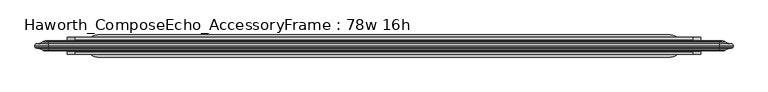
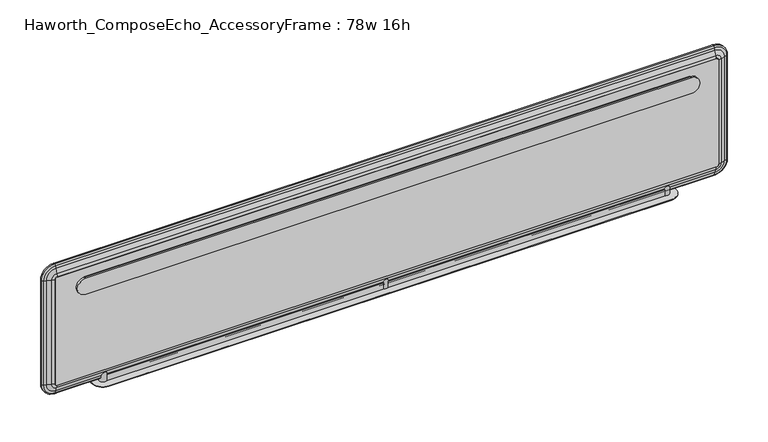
"""IFC4 building model written with IfcOpenShell, lengths in millimetres: furniture geometry, Haworth_ComposeEcho_AccessoryFrame : 78w 16h."""

from ifc_helpers import new_model, si_unit, point, frame, frame_2d, origin, place, context, project, spatial, polyline, circle_curve, ellipse_curve, trimmed, segment, composite_curve, outline, extrude, source, transform, mapped, element, save
from ifc_brep_helpers import plane_surface, cylinder_surface, revolved_surface, advanced_brep


def haworth_composeecho_accessoryframe_78w_16h_adce5783(model_context):
    return source(origin(), model_context, "Body", "SolidModel", [
        extrude(outline(composite_curve([segment(trimmed(circle_curve(frame_2d((1432.9130983, -950.0759879)), 6.3337219), [point((1439.2468202, -950.0759879))], [point((1432.9130983, -956.4097098))], False, "CARTESIAN"), True, "CONTINUOUS"), segment(polyline([(1432.9130983, -956.4097098), (1115.0680007, -956.4097098)]), True, "CONTINUOUS"), segment(trimmed(circle_curve(frame_2d((1115.0680007, -950.0597098)), 6.35), [point((1115.0680007, -956.4097098))], [point((1108.7180007, -950.0597098))], False, "CARTESIAN"), True, "CONTINUOUS"), segment(polyline([(1108.7180007, -950.0597098), (1108.7180007, 954.9402902)]), True, "CONTINUOUS"), segment(trimmed(circle_curve(frame_2d((1115.0680007, 954.9402902)), 6.35), [point((1108.7180007, 954.9402902))], [point((1115.0680007, 961.2902902))], False, "CARTESIAN"), True, "CONTINUOUS"), segment(polyline([(1115.0680007, 961.2902902), (1432.9130983, 961.2902902)]), True, "CONTINUOUS"), segment(trimmed(circle_curve(frame_2d((1432.9130983, 954.9565682)), 6.3337219), [point((1432.9130983, 961.2902902))], [point((1439.2468202, 954.9565682))], False, "CARTESIAN"), True, "CONTINUOUS"), segment(polyline([(1439.2468202, 954.9565682), (1439.2468202, -950.0759879)]), True, "CONTINUOUS")], self_intersect=False)), frame((0.0, -14.2419601, 0.0), z_axis=(0.0, 1.0, 0.0), x_axis=(0.0, 0.0, 1.0)), (0.0, 0.0, 1.0), 28.3652874),
        advanced_brep(
        [(990.1741083, 5.6620988, 1432.9130983), (954.9563745, 5.6620988, 1468.1308321), (954.9563745, 0.0, 1470.6517609), (992.695037, 0.0, 1432.9130983), (982.7453032, 6.4813873, 1432.9130983), (954.9563745, 6.4813873, 1460.7020271), (992.695037, 0.0, 1115.0680007), (990.1741083, 5.6620988, 1115.0680007), (982.7453032, 6.4813873, 1115.0680007), (954.9400964, 5.6620988, 1079.8339888), (954.9400964, 0.0, 1077.31306), (954.9400964, 6.4813873, 1087.2627938), (-950.0597098, 0.0, 1077.31306), (-950.0597098, 5.6620988, 1079.8339888), (-950.0597098, 6.4813873, 1087.2627938), (-985.2937217, 5.6620988, 1115.0680007), (-987.8146505, 0.0, 1115.0680007), (-977.8649167, 6.4813873, 1115.0680007), (-987.8146505, 0.0, 1432.9130983), (-985.2937217, 5.6620988, 1432.9130983), (-977.8649167, 6.4813873, 1432.9130983), (-950.0759879, 5.6620988, 1468.1308321), (-950.0759879, 0.0, 1470.6517609), (-950.0759879, 6.4813873, 1460.7020271), (-956.4097098, 0.0, 1115.0680007), (-956.4097098, 0.0, 1432.9130983), (-950.0759879, 0.0, 1439.2468202), (954.9563745, 0.0, 1439.2468202), (961.2900964, 0.0, 1432.9130983), (961.2900964, 0.0, 1115.0680007), (954.9400964, 0.0, 1108.7180007), (-950.0597098, 0.0, 1108.7180007), (954.9563745, 14.1233272, 1439.2468202), (961.2900964, 14.1233272, 1432.9130983), (954.9563745, 12.0676743, 1447.3253), (969.3685761, 12.0676743, 1432.9130983), (961.2900964, 14.1233272, 1115.0680007), (969.3685761, 12.0676743, 1115.0680007), (954.9400964, 14.1233272, 1108.7180007), (954.9400964, 12.0676743, 1100.6395209), (-950.0597098, 14.1233272, 1108.7180007), (-950.0597098, 12.0676743, 1100.6395209), (-956.4097098, 14.1233272, 1115.0680007), (-964.4881896, 12.0676743, 1115.0680007), (-956.4097098, 14.1233272, 1432.9130983), (-964.4881896, 12.0676743, 1432.9130983), (-950.0759879, 14.1233272, 1439.2468202), (-950.0759879, 12.0676743, 1447.3253)],
        [
            (0, 1, circle_curve(frame((954.9563745, 5.6620988, 1432.9130983), z_axis=(0.0, -1.0, 0.0), x_axis=(0.0, 0.0, 1.0)), 35.2177338)),
            (1, 2, circle_curve(frame((954.9563745, 1.6343332, 1466.7034279), z_axis=(1.0, 0.0, 0.0), x_axis=(0.0, 0.0, -1.0)), 4.2732164)),
            (2, 3, circle_curve(frame((954.9563745, 0.0, 1432.9130983), z_axis=(0.0, 1.0, 0.0), x_axis=(0.0, 0.0, 1.0)), 37.7386626)),
            (3, 0, circle_curve(frame((988.7467041, 1.6343332, 1432.9130983), z_axis=(0.0, 0.0, 1.0), x_axis=(-1.0, 0.0, 0.0)), 4.2732164)),
            (4, 5, circle_curve(frame((954.9563745, 6.4813873, 1432.9130983), z_axis=(0.0, -1.0, 0.0), x_axis=(0.0, 0.0, 1.0)), 27.7889288)),
            (5, 1),
            (0, 4),
            (3, 6),
            (6, 7, circle_curve(frame((988.7467041, 1.6343332, 1115.0680007), z_axis=(0.0, 0.0, 1.0), x_axis=(-1.0, 0.0, 0.0)), 4.2732164)),
            (7, 0),
            (7, 8),
            (8, 4),
            (9, 7, circle_curve(frame((954.9400964, 5.6620988, 1115.0680007), z_axis=(0.0, -1.0, 0.0), x_axis=(1.0, 0.0, 0.0)), 35.2340119)),
            (6, 10, circle_curve(frame((954.9400964, 0.0, 1115.0680007), z_axis=(0.0, 1.0, 0.0), x_axis=(1.0, 0.0, 0.0)), 37.7549407)),
            (10, 9, circle_curve(frame((954.9400964, 1.6343332, 1081.261393), z_axis=(1.0, 0.0, 0.0), x_axis=(0.0, 0.0, 1.0)), 4.2732164)),
            (11, 8, circle_curve(frame((954.9400964, 6.4813873, 1115.0680007), z_axis=(0.0, -1.0, 0.0), x_axis=(1.0, 0.0, 0.0)), 27.8052069)),
            (9, 11),
            (10, 12),
            (12, 13, circle_curve(frame((-950.0597098, 1.6343332, 1081.261393), z_axis=(1.0, 0.0, 0.0), x_axis=(0.0, 0.0, 1.0)), 4.2732164)),
            (13, 9),
            (13, 14),
            (14, 11),
            (15, 13, circle_curve(frame((-950.0597098, 5.6620988, 1115.0680007), z_axis=(0.0, -1.0, 0.0), x_axis=(0.0, 0.0, -1.0)), 35.2340119)),
            (12, 16, circle_curve(frame((-950.0597098, 0.0, 1115.0680007), z_axis=(0.0, 1.0, 0.0), x_axis=(0.0, 0.0, -1.0)), 37.7549407)),
            (16, 15, circle_curve(frame((-983.8663175, 1.6343332, 1115.0680007), z_axis=(0.0, 0.0, -1.0), x_axis=(1.0, 0.0, 0.0)), 4.2732164)),
            (17, 14, circle_curve(frame((-950.0597098, 6.4813873, 1115.0680007), z_axis=(0.0, -1.0, 0.0), x_axis=(0.0, 0.0, -1.0)), 27.8052069)),
            (15, 17),
            (16, 18),
            (18, 19, circle_curve(frame((-983.8663175, 1.6343332, 1432.9130983), z_axis=(0.0, 0.0, -1.0), x_axis=(1.0, 0.0, 0.0)), 4.2732164)),
            (19, 15),
            (19, 20),
            (20, 17),
            (21, 19, circle_curve(frame((-950.0759879, 5.6620988, 1432.9130983), z_axis=(0.0, -1.0, 0.0), x_axis=(-1.0, 0.0, 0.0)), 35.2177338)),
            (18, 22, circle_curve(frame((-950.0759879, 0.0, 1432.9130983), z_axis=(0.0, 1.0, 0.0), x_axis=(-1.0, 0.0, 0.0)), 37.7386626)),
            (22, 21, circle_curve(frame((-950.0759879, 1.6343332, 1466.7034279), z_axis=(-1.0, 0.0, 0.0), x_axis=(0.0, 0.0, -1.0)), 4.2732164)),
            (23, 20, circle_curve(frame((-950.0759879, 6.4813873, 1432.9130983), z_axis=(0.0, -1.0, 0.0), x_axis=(-1.0, 0.0, 0.0)), 27.7889288)),
            (21, 23),
            (22, 2),
            (1, 21),
            (24, 25),
            (25, 26, circle_curve(frame((-950.0759879, 0.0, 1432.9130983), z_axis=(0.0, 1.0, 0.0), x_axis=(-1.0, 0.0, 0.0)), 6.3337219)),
            (26, 27),
            (27, 28, circle_curve(frame((954.9563745, 0.0, 1432.9130983), z_axis=(0.0, 1.0, 0.0), x_axis=(0.0, 0.0, 1.0)), 6.3337219)),
            (28, 29),
            (29, 30, circle_curve(frame((954.9400964, 0.0, 1115.0680007), z_axis=(0.0, 1.0, 0.0), x_axis=(1.0, 0.0, 0.0)), 6.35)),
            (30, 31),
            (31, 24, circle_curve(frame((-950.0597098, 0.0, 1115.0680007), z_axis=(0.0, 1.0, 0.0), x_axis=(0.0, 0.0, -1.0)), 6.35)),
            (5, 23),
            (27, 32),
            (32, 33, circle_curve(frame((954.9563745, 14.1233272, 1432.9130983), z_axis=(0.0, 1.0, 0.0), x_axis=(0.0, 0.0, 1.0)), 6.3337219)),
            (33, 28),
            (32, 34, circle_curve(frame((954.9563745, -7.831597, 1437.960943), z_axis=(1.0, 0.0, 0.0), x_axis=(0.0, 0.0, -1.0)), 21.9925482)),
            (34, 35, circle_curve(frame((954.9563745, 12.0676743, 1432.9130983), z_axis=(0.0, 1.0, 0.0), x_axis=(0.0, 0.0, 1.0)), 14.4122017)),
            (35, 33, circle_curve(frame((960.0042192, -7.831597, 1432.9130983), z_axis=(0.0, 0.0, 1.0), x_axis=(-1.0, 0.0, 0.0)), 21.9925482)),
            (34, 5, circle_curve(frame((954.9563745, 160.3401291, 1517.1005285), z_axis=(-1.0, 0.0, 0.0), x_axis=(0.0, 0.0, -1.0)), 163.8697757)),
            (4, 35, circle_curve(frame((1039.1438047, 160.3401291, 1432.9130983), z_axis=(0.0, 0.0, -1.0), x_axis=(-1.0, 0.0, 0.0)), 163.8697757)),
            (33, 36),
            (36, 29),
            (35, 37),
            (37, 36, circle_curve(frame((960.0042192, -7.831597, 1115.0680007), z_axis=(0.0, 0.0, 1.0), x_axis=(-1.0, 0.0, 0.0)), 21.9925482)),
            (8, 37, circle_curve(frame((1039.1438047, 160.3401291, 1115.0680007), z_axis=(0.0, 0.0, -1.0), x_axis=(-1.0, 0.0, 0.0)), 163.8697757)),
            (36, 38, circle_curve(frame((954.9400964, 14.1233272, 1115.0680007), z_axis=(0.0, 1.0, 0.0), x_axis=(1.0, 0.0, 0.0)), 6.35)),
            (38, 30),
            (37, 39, circle_curve(frame((954.9400964, 12.0676743, 1115.0680007), z_axis=(0.0, 1.0, 0.0), x_axis=(1.0, 0.0, 0.0)), 14.4284798)),
            (39, 38, circle_curve(frame((954.9400964, -7.831597, 1110.0038779), z_axis=(1.0, 0.0, 0.0), x_axis=(0.0, 0.0, 1.0)), 21.9925482)),
            (11, 39, circle_curve(frame((954.9400964, 160.3401291, 1030.8642924), z_axis=(-1.0, 0.0, 0.0), x_axis=(0.0, 0.0, 1.0)), 163.8697757)),
            (38, 40),
            (40, 31),
            (39, 41),
            (41, 40, circle_curve(frame((-950.0597098, -7.831597, 1110.0038779), z_axis=(1.0, 0.0, 0.0), x_axis=(0.0, 0.0, 1.0)), 21.9925482)),
            (14, 41, circle_curve(frame((-950.0597098, 160.3401291, 1030.8642924), z_axis=(-1.0, 0.0, 0.0), x_axis=(0.0, 0.0, 1.0)), 163.8697757)),
            (40, 42, circle_curve(frame((-950.0597098, 14.1233272, 1115.0680007), z_axis=(0.0, 1.0, 0.0), x_axis=(0.0, 0.0, -1.0)), 6.35)),
            (42, 24),
            (41, 43, circle_curve(frame((-950.0597098, 12.0676743, 1115.0680007), z_axis=(0.0, 1.0, 0.0), x_axis=(0.0, 0.0, -1.0)), 14.4284798)),
            (43, 42, circle_curve(frame((-955.1238326, -7.831597, 1115.0680007), z_axis=(0.0, 0.0, -1.0), x_axis=(1.0, 0.0, 0.0)), 21.9925482)),
            (17, 43, circle_curve(frame((-1034.2634181, 160.3401291, 1115.0680007), z_axis=(0.0, 0.0, 1.0), x_axis=(1.0, 0.0, 0.0)), 163.8697757)),
            (42, 44),
            (44, 25),
            (43, 45),
            (45, 44, circle_curve(frame((-955.1238326, -7.831597, 1432.9130983), z_axis=(0.0, 0.0, -1.0), x_axis=(1.0, 0.0, 0.0)), 21.9925482)),
            (20, 45, circle_curve(frame((-1034.2634181, 160.3401291, 1432.9130983), z_axis=(0.0, 0.0, 1.0), x_axis=(1.0, 0.0, 0.0)), 163.8697757)),
            (44, 46, circle_curve(frame((-950.0759879, 14.1233272, 1432.9130983), z_axis=(0.0, 1.0, 0.0), x_axis=(-1.0, 0.0, 0.0)), 6.3337219)),
            (46, 26),
            (45, 47, circle_curve(frame((-950.0759879, 12.0676743, 1432.9130983), z_axis=(0.0, 1.0, 0.0), x_axis=(-1.0, 0.0, 0.0)), 14.4122017)),
            (47, 46, circle_curve(frame((-950.0759879, -7.831597, 1437.960943), z_axis=(-1.0, 0.0, 0.0), x_axis=(0.0, 0.0, -1.0)), 21.9925482)),
            (23, 47, circle_curve(frame((-950.0759879, 160.3401291, 1517.1005285), z_axis=(1.0, 0.0, 0.0), x_axis=(0.0, 0.0, -1.0)), 163.8697757)),
            (46, 32),
            (47, 34),
        ],
        [
            revolved_surface(trimmed(ellipse_curve(frame((954.9563745, 1.6343332, 1466.7034279), z_axis=(-1.0, 0.0, 0.0), x_axis=(0.0, 0.0, -1.0)), 4.2732164, 4.2732164), [point((954.9563745, 0.0, 1470.6517609))], [point((954.9563745, 5.6620988, 1468.1308321))], True, "CARTESIAN"), (954.9563745, 0.0, 1432.9130983), (0.0, 1.0, 0.0)),
            revolved_surface(polyline([(954.9563745, 5.6620988, 1468.1308321), (954.9563745, 6.4813873, 1460.7020271)]), (954.9563745, 0.0, 1432.9130983), (0.0, 1.0, 0.0)),
            cylinder_surface(frame((988.7467041, 1.6343332, 1432.9130983), z_axis=(0.0, 0.0, 1.0), x_axis=(-1.0, 0.0, 0.0)), 4.2732164),
            plane_surface(frame((990.1741083, 5.6620988, 1432.9130983), z_axis=(0.10962074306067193, 0.9939734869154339, 0.0), x_axis=(0.0, 0.0, -1.0))),
            revolved_surface(trimmed(ellipse_curve(frame((988.7467041, 1.6343332, 1115.0680007), z_axis=(0.0, 0.0, 1.0), x_axis=(-1.0, 0.0, 0.0)), 4.2732164, 4.2732164), [point((992.695037, 0.0, 1115.0680007))], [point((990.1741083, 5.6620988, 1115.0680007))], True, "CARTESIAN"), (954.9400964, 0.0, 1115.0680007), (0.0, 1.0, 0.0)),
            revolved_surface(polyline([(990.1741083, 5.6620988, 1115.0680007), (982.7453032, 6.4813873, 1115.0680007)]), (954.9400964, 0.0, 1115.0680007), (0.0, 1.0, 0.0)),
            cylinder_surface(frame((954.9400964, 1.6343332, 1081.261393), z_axis=(1.0, 0.0, 0.0), x_axis=(0.0, 0.0, 1.0)), 4.2732164),
            plane_surface(frame((954.9400964, 5.6620988, 1079.8339888), z_axis=(0.0, 0.9939734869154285, -0.109620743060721), x_axis=(-1.0, 0.0, 0.0))),
            revolved_surface(trimmed(ellipse_curve(frame((-950.0597098, 1.6343332, 1081.261393), z_axis=(1.0, 0.0, 0.0), x_axis=(0.0, 0.0, 1.0)), 4.2732164, 4.2732164), [point((-950.0597098, 0.0, 1077.31306))], [point((-950.0597098, 5.6620988, 1079.8339888))], True, "CARTESIAN"), (-950.0597098, 0.0, 1115.0680007), (0.0, 1.0, 0.0)),
            revolved_surface(polyline([(-950.0597098, 5.6620988, 1079.8339888), (-950.0597098, 6.4813873, 1087.2627938)]), (-950.0597098, 0.0, 1115.0680007), (0.0, 1.0, 0.0)),
            cylinder_surface(frame((-983.8663175, 1.6343332, 1115.0680007), z_axis=(0.0, 0.0, -1.0), x_axis=(1.0, 0.0, 0.0)), 4.2732164),
            plane_surface(frame((-985.2937217, 5.6620988, 1115.0680007), z_axis=(-0.10962074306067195, 0.993973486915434, 0.0), x_axis=(0.0, 0.0, 1.0))),
            revolved_surface(trimmed(ellipse_curve(frame((-983.8663175, 1.6343332, 1432.9130983), z_axis=(0.0, 0.0, -1.0), x_axis=(1.0, 0.0, 0.0)), 4.2732164, 4.2732164), [point((-987.8146505, 0.0, 1432.9130983))], [point((-985.2937217, 5.6620988, 1432.9130983))], True, "CARTESIAN"), (-950.0759879, 0.0, 1432.9130983), (0.0, 1.0, 0.0)),
            revolved_surface(polyline([(-985.2937217, 5.6620988, 1432.9130983), (-977.8649167, 6.4813873, 1432.9130983)]), (-950.0759879, 0.0, 1432.9130983), (0.0, 1.0, 0.0)),
            cylinder_surface(frame((-950.0759879, 1.6343332, 1466.7034279), z_axis=(-1.0, 0.0, 0.0), x_axis=(0.0, 0.0, -1.0)), 4.2732164),
            plane_surface(frame((-950.0759879, 0.0, 1439.2468202), z_axis=(0.0, -1.0, 0.0), x_axis=(1.0, 0.0, 0.0))),
            plane_surface(frame((-950.0759879, 5.6620988, 1468.1308321), z_axis=(0.0, 0.9939734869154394, 0.10962074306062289), x_axis=(1.0, 0.0, 0.0))),
            revolved_surface(polyline([(954.9563745, 14.1233272, 1439.2468202), (954.9563745, 0.0, 1439.2468202)]), (954.9563745, 0.0, 1432.9130983), (0.0, 1.0, 0.0)),
            revolved_surface(trimmed(ellipse_curve(frame((954.9563745, -7.831597, 1437.960943), z_axis=(-1.0, 0.0, 0.0), x_axis=(0.0, 0.0, -1.0)), 21.9925482, 21.9925482), [point((954.9563745, 12.0676743, 1447.3253))], [point((954.9563745, 14.1233272, 1439.2468202))], True, "CARTESIAN"), (954.9563745, 0.0, 1432.9130983), (0.0, 1.0, 0.0)),
            revolved_surface(trimmed(ellipse_curve(frame((954.9563745, 160.3401291, 1517.1005285), z_axis=(1.0, 0.0, 0.0), x_axis=(0.0, 0.0, -1.0)), 163.8697757, 163.8697757), [point((954.9563745, 6.4813873, 1460.7020271))], [point((954.9563745, 12.0676743, 1447.3253))], True, "CARTESIAN"), (954.9563745, 0.0, 1432.9130983), (0.0, 1.0, 0.0)),
            plane_surface(frame((961.2900964, 14.1233272, 1432.9130983), z_axis=(-1.0, 0.0, 0.0), x_axis=(0.0, 0.0, -1.0))),
            cylinder_surface(frame((960.0042192, -7.831597, 1432.9130983), z_axis=(0.0, 0.0, 1.0), x_axis=(-1.0, 0.0, 0.0)), 21.9925482),
            revolved_surface(polyline([(875.2740289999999, 160.3401291, 1115.0680007), (875.2740289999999, 160.3401291, 1432.9130983)]), (1039.1438047, 160.3401291, 1432.9130983), (0.0, 0.0, -1.0)),
            revolved_surface(polyline([(961.2900964, 14.1233272, 1115.0680007), (961.2900964, 0.0, 1115.0680007)]), (954.9400964, 0.0, 1115.0680007), (0.0, 1.0, 0.0)),
            revolved_surface(trimmed(ellipse_curve(frame((960.0042192, -7.831597, 1115.0680007), z_axis=(0.0, 0.0, 1.0), x_axis=(-1.0, 0.0, 0.0)), 21.9925482, 21.9925482), [point((969.3685761, 12.0676743, 1115.0680007))], [point((961.2900964, 14.1233272, 1115.0680007))], True, "CARTESIAN"), (954.9400964, 0.0, 1115.0680007), (0.0, 1.0, 0.0)),
            revolved_surface(trimmed(ellipse_curve(frame((1039.1438047, 160.3401291, 1115.0680007), z_axis=(0.0, 0.0, -1.0), x_axis=(-1.0, 0.0, 0.0)), 163.8697757, 163.8697757), [point((982.7453032, 6.4813873, 1115.0680007))], [point((969.3685761, 12.0676743, 1115.0680007))], True, "CARTESIAN"), (954.9400964, 0.0, 1115.0680007), (0.0, 1.0, 0.0)),
            plane_surface(frame((954.9400964, 14.1233272, 1108.7180007), z_axis=(0.0, 0.0, 1.0), x_axis=(-1.0, 0.0, 0.0))),
            cylinder_surface(frame((954.9400964, -7.831597, 1110.0038779), z_axis=(1.0, 0.0, 0.0), x_axis=(0.0, 0.0, 1.0)), 21.9925482),
            revolved_surface(polyline([(-950.0597098, 160.3401291, 1194.7340681), (954.9400964, 160.3401291, 1194.7340681)]), (954.9400964, 160.3401291, 1030.8642924), (-1.0, 0.0, 0.0)),
            revolved_surface(polyline([(-950.0597098, 14.1233272, 1108.7180007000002), (-950.0597098, 0.0, 1108.7180007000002)]), (-950.0597098, 0.0, 1115.0680007), (0.0, 1.0, 0.0)),
            revolved_surface(trimmed(ellipse_curve(frame((-950.0597098, -7.831597, 1110.0038779), z_axis=(1.0, 0.0, 0.0), x_axis=(0.0, 0.0, 1.0)), 21.9925482, 21.9925482), [point((-950.0597098, 12.0676743, 1100.6395209))], [point((-950.0597098, 14.1233272, 1108.7180007))], True, "CARTESIAN"), (-950.0597098, 0.0, 1115.0680007), (0.0, 1.0, 0.0)),
            revolved_surface(trimmed(ellipse_curve(frame((-950.0597098, 160.3401291, 1030.8642924), z_axis=(-1.0, 0.0, 0.0), x_axis=(0.0, 0.0, 1.0)), 163.8697757, 163.8697757), [point((-950.0597098, 6.4813873, 1087.2627938))], [point((-950.0597098, 12.0676743, 1100.6395209))], True, "CARTESIAN"), (-950.0597098, 0.0, 1115.0680007), (0.0, 1.0, 0.0)),
            plane_surface(frame((-956.4097098, 14.1233272, 1115.0680007), z_axis=(1.0, 0.0, 0.0), x_axis=(0.0, 0.0, 1.0))),
            cylinder_surface(frame((-955.1238326, -7.831597, 1115.0680007), z_axis=(0.0, 0.0, -1.0), x_axis=(1.0, 0.0, 0.0)), 21.9925482),
            revolved_surface(polyline([(-870.3936424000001, 160.3401291, 1432.9130983), (-870.3936424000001, 160.3401291, 1115.0680007)]), (-1034.2634181, 160.3401291, 1115.0680007), (0.0, 0.0, 1.0)),
            revolved_surface(polyline([(-956.4097098, 14.1233272, 1432.9130983), (-956.4097098, 0.0, 1432.9130983)]), (-950.0759879, 0.0, 1432.9130983), (0.0, 1.0, 0.0)),
            revolved_surface(trimmed(ellipse_curve(frame((-955.1238326, -7.831597, 1432.9130983), z_axis=(0.0, 0.0, -1.0), x_axis=(1.0, 0.0, 0.0)), 21.9925482, 21.9925482), [point((-964.4881896, 12.0676743, 1432.9130983))], [point((-956.4097098, 14.1233272, 1432.9130983))], True, "CARTESIAN"), (-950.0759879, 0.0, 1432.9130983), (0.0, 1.0, 0.0)),
            revolved_surface(trimmed(ellipse_curve(frame((-1034.2634181, 160.3401291, 1432.9130983), z_axis=(0.0, 0.0, 1.0), x_axis=(1.0, 0.0, 0.0)), 163.8697757, 163.8697757), [point((-977.8649167, 6.4813873, 1432.9130983))], [point((-964.4881896, 12.0676743, 1432.9130983))], True, "CARTESIAN"), (-950.0759879, 0.0, 1432.9130983), (0.0, 1.0, 0.0)),
            plane_surface(frame((-950.0759879, 14.1233272, 1439.2468202), z_axis=(0.0, 0.0, -1.0), x_axis=(1.0, 0.0, 0.0))),
            cylinder_surface(frame((-950.0759879, -7.831597, 1437.960943), z_axis=(-1.0, 0.0, 0.0), x_axis=(0.0, 0.0, -1.0)), 21.9925482),
            revolved_surface(polyline([(954.9563745, 160.3401291, 1353.2307528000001), (-950.0759879, 160.3401291, 1353.2307528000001)]), (-950.0759879, 160.3401291, 1517.1005285), (1.0, 0.0, 0.0)),
        ],
        [
            (0, [[1, 2, 3, 4]]),
            (1, [[5, 6, -1, 7]]),
            (2, [[-4, 8, 9, 10]]),
            (3, [[-7, -10, 11, 12]]),
            (4, [[13, -9, 14, 15]]),
            (5, [[16, -11, -13, 17]]),
            (6, [[-15, 18, 19, 20]]),
            (7, [[-17, -20, 21, 22]]),
            (8, [[23, -19, 24, 25]]),
            (9, [[26, -21, -23, 27]]),
            (10, [[-25, 28, 29, 30]]),
            (11, [[-27, -30, 31, 32]]),
            (12, [[33, -29, 34, 35]]),
            (13, [[36, -31, -33, 37]]),
            (14, [[-35, 38, -2, 39]]),
            (15, [[-38, -34, -28, -24, -18, -14, -8, -3], [40, 41, 42, 43, 44, 45, 46, 47]]),
            (16, [[-37, -39, -6, 48]]),
            (17, [[-43, 49, 50, 51]]),
            (18, [[-50, 52, 53, 54]]),
            (19, [[-53, 55, -5, 56]]),
            (20, [[-51, 57, 58, -44]]),
            (21, [[-54, 59, 60, -57]]),
            (22, [[-56, -12, 61, -59]]),
            (23, [[-45, -58, 62, 63]]),
            (24, [[-62, -60, 64, 65]]),
            (25, [[-64, -61, -16, 66]]),
            (26, [[-63, 67, 68, -46]]),
            (27, [[-65, 69, 70, -67]]),
            (28, [[-66, -22, 71, -69]]),
            (29, [[-47, -68, 72, 73]]),
            (30, [[-72, -70, 74, 75]]),
            (31, [[-74, -71, -26, 76]]),
            (32, [[-73, 77, 78, -40]]),
            (33, [[-75, 79, 80, -77]]),
            (34, [[-76, -32, 81, -79]]),
            (35, [[-41, -78, 82, 83]]),
            (36, [[-82, -80, 84, 85]]),
            (37, [[-84, -81, -36, 86]]),
            (38, [[-83, 87, -49, -42]]),
            (39, [[-85, 88, -52, -87]]),
            (40, [[-86, -48, -55, -88]]),
        ],
    ),
        advanced_brep(
        [(992.695037, 0.0, 1432.9130983), (954.9563745, 0.0, 1470.6517609), (954.9563745, -5.6620988, 1468.1308321), (990.1741083, -5.6620988, 1432.9130983), (954.9563745, -6.4813873, 1460.7020271), (982.7453032, -6.4813873, 1432.9130983), (990.1741083, -5.6620988, 1115.0680007), (992.695037, 0.0, 1115.0680007), (982.7453032, -6.4813873, 1115.0680007), (954.9400964, 0.0, 1077.31306), (954.9400964, -5.6620988, 1079.8339888), (954.9400964, -6.4813873, 1087.2627938), (-950.0597098, -5.6620988, 1079.8339888), (-950.0597098, 0.0, 1077.31306), (-950.0597098, -6.4813873, 1087.2627938), (-987.8146505, 0.0, 1115.0680007), (-985.2937217, -5.6620988, 1115.0680007), (-977.8649167, -6.4813873, 1115.0680007), (-985.2937217, -5.6620988, 1432.9130983), (-987.8146505, 0.0, 1432.9130983), (-977.8649167, -6.4813873, 1432.9130983), (-950.0759879, 0.0, 1470.6517609), (-950.0759879, -5.6620988, 1468.1308321), (-950.0759879, -6.4813873, 1460.7020271), (954.9563745, 0.0, 1439.2468202), (-950.0759879, 0.0, 1439.2468202), (-956.4097098, 0.0, 1432.9130983), (-956.4097098, 0.0, 1115.0680007), (-950.0597098, 0.0, 1108.7180007), (954.9400964, 0.0, 1108.7180007), (961.2900964, 0.0, 1115.0680007), (961.2900964, 0.0, 1432.9130983), (961.2900964, -14.1233272, 1432.9130983), (954.9563745, -14.1233272, 1439.2468202), (969.3685761, -12.0676743, 1432.9130983), (954.9563745, -12.0676743, 1447.3253), (961.2900964, -14.1233272, 1115.0680007), (969.3685761, -12.0676743, 1115.0680007), (954.9400964, -14.1233272, 1108.7180007), (954.9400964, -12.0676743, 1100.6395209), (-950.0597098, -14.1233272, 1108.7180007), (-950.0597098, -12.0676743, 1100.6395209), (-956.4097098, -14.1233272, 1115.0680007), (-964.4881896, -12.0676743, 1115.0680007), (-956.4097098, -14.1233272, 1432.9130983), (-964.4881896, -12.0676743, 1432.9130983), (-950.0759879, -14.1233272, 1439.2468202), (-950.0759879, -12.0676743, 1447.3253)],
        [
            (0, 1, circle_curve(frame((954.9563745, 0.0, 1432.9130983), z_axis=(0.0, -1.0, 0.0), x_axis=(0.0, 0.0, 1.0)), 37.7386626)),
            (1, 2, circle_curve(frame((954.9563745, -1.6343332, 1466.7034279), z_axis=(1.0, 0.0, 0.0), x_axis=(0.0, 0.0, 1.0)), 4.2732164)),
            (2, 3, circle_curve(frame((954.9563745, -5.6620988, 1432.9130983), z_axis=(0.0, 1.0, 0.0), x_axis=(0.0, 0.0, 1.0)), 35.2177338)),
            (3, 0, circle_curve(frame((988.7467041, -1.6343332, 1432.9130983), z_axis=(0.0, 0.0, 1.0), x_axis=(1.0, 0.0, 0.0)), 4.2732164)),
            (2, 4),
            (4, 5, circle_curve(frame((954.9563745, -6.4813873, 1432.9130983), z_axis=(0.0, 1.0, 0.0), x_axis=(0.0, 0.0, 1.0)), 27.7889288)),
            (5, 3),
            (3, 6),
            (6, 7, circle_curve(frame((988.7467041, -1.6343332, 1115.0680007), z_axis=(0.0, 0.0, 1.0), x_axis=(1.0, 0.0, 0.0)), 4.2732164)),
            (7, 0),
            (5, 8),
            (8, 6),
            (9, 7, circle_curve(frame((954.9400964, 0.0, 1115.0680007), z_axis=(0.0, -1.0, 0.0), x_axis=(1.0, 0.0, 0.0)), 37.7549407)),
            (6, 10, circle_curve(frame((954.9400964, -5.6620988, 1115.0680007), z_axis=(0.0, 1.0, 0.0), x_axis=(1.0, 0.0, 0.0)), 35.2340119)),
            (10, 9, circle_curve(frame((954.9400964, -1.6343332, 1081.261393), z_axis=(1.0, 0.0, 0.0), x_axis=(0.0, 0.0, -1.0)), 4.2732164)),
            (8, 11, circle_curve(frame((954.9400964, -6.4813873, 1115.0680007), z_axis=(0.0, 1.0, 0.0), x_axis=(1.0, 0.0, 0.0)), 27.8052069)),
            (11, 10),
            (10, 12),
            (12, 13, circle_curve(frame((-950.0597098, -1.6343332, 1081.261393), z_axis=(1.0, 0.0, 0.0), x_axis=(0.0, 0.0, -1.0)), 4.2732164)),
            (13, 9),
            (11, 14),
            (14, 12),
            (15, 13, circle_curve(frame((-950.0597098, 0.0, 1115.0680007), z_axis=(0.0, -1.0, 0.0), x_axis=(0.0, 0.0, -1.0)), 37.7549407)),
            (12, 16, circle_curve(frame((-950.0597098, -5.6620988, 1115.0680007), z_axis=(0.0, 1.0, 0.0), x_axis=(0.0, 0.0, -1.0)), 35.2340119)),
            (16, 15, circle_curve(frame((-983.8663175, -1.6343332, 1115.0680007), z_axis=(0.0, 0.0, -1.0), x_axis=(-1.0, 0.0, 0.0)), 4.2732164)),
            (14, 17, circle_curve(frame((-950.0597098, -6.4813873, 1115.0680007), z_axis=(0.0, 1.0, 0.0), x_axis=(0.0, 0.0, -1.0)), 27.8052069)),
            (17, 16),
            (16, 18),
            (18, 19, circle_curve(frame((-983.8663175, -1.6343332, 1432.9130983), z_axis=(0.0, 0.0, -1.0), x_axis=(-1.0, 0.0, 0.0)), 4.2732164)),
            (19, 15),
            (17, 20),
            (20, 18),
            (21, 19, circle_curve(frame((-950.0759879, 0.0, 1432.9130983), z_axis=(0.0, -1.0, 0.0), x_axis=(-1.0, 0.0, 0.0)), 37.7386626)),
            (18, 22, circle_curve(frame((-950.0759879, -5.6620988, 1432.9130983), z_axis=(0.0, 1.0, 0.0), x_axis=(-1.0, 0.0, 0.0)), 35.2177338)),
            (22, 21, circle_curve(frame((-950.0759879, -1.6343332, 1466.7034279), z_axis=(-1.0, 0.0, 0.0), x_axis=(0.0, 0.0, 1.0)), 4.2732164)),
            (20, 23, circle_curve(frame((-950.0759879, -6.4813873, 1432.9130983), z_axis=(0.0, 1.0, 0.0), x_axis=(-1.0, 0.0, 0.0)), 27.7889288)),
            (23, 22),
            (22, 2),
            (1, 21),
            (24, 25),
            (25, 26, circle_curve(frame((-950.0759879, 0.0, 1432.9130983), z_axis=(0.0, -1.0, 0.0), x_axis=(-1.0, 0.0, 0.0)), 6.3337219)),
            (26, 27),
            (27, 28, circle_curve(frame((-950.0597098, 0.0, 1115.0680007), z_axis=(0.0, -1.0, 0.0), x_axis=(0.0, 0.0, -1.0)), 6.35)),
            (28, 29),
            (29, 30, circle_curve(frame((954.9400964, 0.0, 1115.0680007), z_axis=(0.0, -1.0, 0.0), x_axis=(1.0, 0.0, 0.0)), 6.35)),
            (30, 31),
            (31, 24, circle_curve(frame((954.9563745, 0.0, 1432.9130983), z_axis=(0.0, -1.0, 0.0), x_axis=(0.0, 0.0, 1.0)), 6.3337219)),
            (23, 4),
            (32, 33, circle_curve(frame((954.9563745, -14.1233272, 1432.9130983), z_axis=(0.0, -1.0, 0.0), x_axis=(0.0, 0.0, 1.0)), 6.3337219)),
            (33, 24),
            (31, 32),
            (34, 35, circle_curve(frame((954.9563745, -12.0676743, 1432.9130983), z_axis=(0.0, -1.0, 0.0), x_axis=(0.0, 0.0, 1.0)), 14.4122017)),
            (35, 33, circle_curve(frame((954.9563745, 7.831597, 1437.960943), z_axis=(1.0, 0.0, 0.0), x_axis=(0.0, 0.0, 1.0)), 21.9925482)),
            (32, 34, circle_curve(frame((960.0042192, 7.831597, 1432.9130983), z_axis=(0.0, 0.0, 1.0), x_axis=(1.0, 0.0, 0.0)), 21.9925482)),
            (4, 35, circle_curve(frame((954.9563745, -160.3401291, 1517.1005285), z_axis=(-1.0, 0.0, 0.0), x_axis=(0.0, 0.0, 1.0)), 163.8697757)),
            (34, 5, circle_curve(frame((1039.1438047, -160.3401291, 1432.9130983), z_axis=(0.0, 0.0, -1.0), x_axis=(1.0, 0.0, 0.0)), 163.8697757)),
            (30, 36),
            (36, 32),
            (36, 37, circle_curve(frame((960.0042192, 7.831597, 1115.0680007), z_axis=(0.0, 0.0, 1.0), x_axis=(1.0, 0.0, 0.0)), 21.9925482)),
            (37, 34),
            (37, 8, circle_curve(frame((1039.1438047, -160.3401291, 1115.0680007), z_axis=(0.0, 0.0, -1.0), x_axis=(1.0, 0.0, 0.0)), 163.8697757)),
            (38, 36, circle_curve(frame((954.9400964, -14.1233272, 1115.0680007), z_axis=(0.0, -1.0, 0.0), x_axis=(1.0, 0.0, 0.0)), 6.35)),
            (29, 38),
            (39, 37, circle_curve(frame((954.9400964, -12.0676743, 1115.0680007), z_axis=(0.0, -1.0, 0.0), x_axis=(1.0, 0.0, 0.0)), 14.4284798)),
            (38, 39, circle_curve(frame((954.9400964, 7.831597, 1110.0038779), z_axis=(1.0, 0.0, 0.0), x_axis=(0.0, 0.0, -1.0)), 21.9925482)),
            (39, 11, circle_curve(frame((954.9400964, -160.3401291, 1030.8642924), z_axis=(-1.0, 0.0, 0.0), x_axis=(0.0, 0.0, -1.0)), 163.8697757)),
            (28, 40),
            (40, 38),
            (40, 41, circle_curve(frame((-950.0597098, 7.831597, 1110.0038779), z_axis=(1.0, 0.0, 0.0), x_axis=(0.0, 0.0, -1.0)), 21.9925482)),
            (41, 39),
            (41, 14, circle_curve(frame((-950.0597098, -160.3401291, 1030.8642924), z_axis=(-1.0, 0.0, 0.0), x_axis=(0.0, 0.0, -1.0)), 163.8697757)),
            (42, 40, circle_curve(frame((-950.0597098, -14.1233272, 1115.0680007), z_axis=(0.0, -1.0, 0.0), x_axis=(0.0, 0.0, -1.0)), 6.35)),
            (27, 42),
            (43, 41, circle_curve(frame((-950.0597098, -12.0676743, 1115.0680007), z_axis=(0.0, -1.0, 0.0), x_axis=(0.0, 0.0, -1.0)), 14.4284798)),
            (42, 43, circle_curve(frame((-955.1238326, 7.831597, 1115.0680007), z_axis=(0.0, 0.0, -1.0), x_axis=(-1.0, 0.0, 0.0)), 21.9925482)),
            (43, 17, circle_curve(frame((-1034.2634181, -160.3401291, 1115.0680007), z_axis=(0.0, 0.0, 1.0), x_axis=(-1.0, 0.0, 0.0)), 163.8697757)),
            (26, 44),
            (44, 42),
            (44, 45, circle_curve(frame((-955.1238326, 7.831597, 1432.9130983), z_axis=(0.0, 0.0, -1.0), x_axis=(-1.0, 0.0, 0.0)), 21.9925482)),
            (45, 43),
            (45, 20, circle_curve(frame((-1034.2634181, -160.3401291, 1432.9130983), z_axis=(0.0, 0.0, 1.0), x_axis=(-1.0, 0.0, 0.0)), 163.8697757)),
            (46, 44, circle_curve(frame((-950.0759879, -14.1233272, 1432.9130983), z_axis=(0.0, -1.0, 0.0), x_axis=(-1.0, 0.0, 0.0)), 6.3337219)),
            (25, 46),
            (47, 45, circle_curve(frame((-950.0759879, -12.0676743, 1432.9130983), z_axis=(0.0, -1.0, 0.0), x_axis=(-1.0, 0.0, 0.0)), 14.4122017)),
            (46, 47, circle_curve(frame((-950.0759879, 7.831597, 1437.960943), z_axis=(-1.0, 0.0, 0.0), x_axis=(0.0, 0.0, 1.0)), 21.9925482)),
            (47, 23, circle_curve(frame((-950.0759879, -160.3401291, 1517.1005285), z_axis=(1.0, 0.0, 0.0), x_axis=(0.0, 0.0, 1.0)), 163.8697757)),
            (33, 46),
            (35, 47),
        ],
        [
            revolved_surface(trimmed(ellipse_curve(frame((954.9563745, -1.6343332, 1466.7034279), z_axis=(-1.0, 0.0, 0.0), x_axis=(0.0, 0.0, 1.0)), 4.2732164, 4.2732164), [point((954.9563745, -5.6620988, 1468.1308321))], [point((954.9563745, 0.0, 1470.6517609))], True, "CARTESIAN"), (954.9563745, 0.0, 1432.9130983), (0.0, 1.0, 0.0)),
            revolved_surface(polyline([(954.9563745, -6.4813873, 1460.7020271), (954.9563745, -5.6620988, 1468.1308321)]), (954.9563745, 0.0, 1432.9130983), (0.0, 1.0, 0.0)),
            cylinder_surface(frame((988.7467041, -1.6343332, 1432.9130983), z_axis=(0.0, 0.0, 1.0), x_axis=(1.0, 0.0, 0.0)), 4.2732164),
            plane_surface(frame((982.7453032, -6.4813873, 1432.9130983), z_axis=(0.10962074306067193, -0.9939734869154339, 0.0), x_axis=(0.0, 0.0, -1.0))),
            revolved_surface(trimmed(ellipse_curve(frame((988.7467041, -1.6343332, 1115.0680007), z_axis=(0.0, 0.0, 1.0), x_axis=(1.0, 0.0, 0.0)), 4.2732164, 4.2732164), [point((990.1741083, -5.6620988, 1115.0680007))], [point((992.695037, 0.0, 1115.0680007))], True, "CARTESIAN"), (954.9400964, 0.0, 1115.0680007), (0.0, 1.0, 0.0)),
            revolved_surface(polyline([(982.7453032, -6.4813873, 1115.0680007), (990.1741083, -5.6620988, 1115.0680007)]), (954.9400964, 0.0, 1115.0680007), (0.0, 1.0, 0.0)),
            cylinder_surface(frame((954.9400964, -1.6343332, 1081.261393), z_axis=(1.0, 0.0, 0.0), x_axis=(0.0, 0.0, -1.0)), 4.2732164),
            plane_surface(frame((954.9400964, -6.4813873, 1087.2627938), z_axis=(0.0, -0.9939734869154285, -0.109620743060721), x_axis=(-1.0, 0.0, 0.0))),
            revolved_surface(trimmed(ellipse_curve(frame((-950.0597098, -1.6343332, 1081.261393), z_axis=(1.0, 0.0, 0.0), x_axis=(0.0, 0.0, -1.0)), 4.2732164, 4.2732164), [point((-950.0597098, -5.6620988, 1079.8339888))], [point((-950.0597098, 0.0, 1077.31306))], True, "CARTESIAN"), (-950.0597098, 0.0, 1115.0680007), (0.0, 1.0, 0.0)),
            revolved_surface(polyline([(-950.0597098, -6.4813873, 1087.2627938), (-950.0597098, -5.6620988, 1079.8339888)]), (-950.0597098, 0.0, 1115.0680007), (0.0, 1.0, 0.0)),
            cylinder_surface(frame((-983.8663175, -1.6343332, 1115.0680007), z_axis=(0.0, 0.0, -1.0), x_axis=(-1.0, 0.0, 0.0)), 4.2732164),
            plane_surface(frame((-977.8649167, -6.4813873, 1115.0680007), z_axis=(-0.10962074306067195, -0.993973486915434, 0.0), x_axis=(0.0, 0.0, 1.0))),
            revolved_surface(trimmed(ellipse_curve(frame((-983.8663175, -1.6343332, 1432.9130983), z_axis=(0.0, 0.0, -1.0), x_axis=(-1.0, 0.0, 0.0)), 4.2732164, 4.2732164), [point((-985.2937217, -5.6620988, 1432.9130983))], [point((-987.8146505, 0.0, 1432.9130983))], True, "CARTESIAN"), (-950.0759879, 0.0, 1432.9130983), (0.0, 1.0, 0.0)),
            revolved_surface(polyline([(-977.8649167, -6.4813873, 1432.9130983), (-985.2937217, -5.6620988, 1432.9130983)]), (-950.0759879, 0.0, 1432.9130983), (0.0, 1.0, 0.0)),
            cylinder_surface(frame((-950.0759879, -1.6343332, 1466.7034279), z_axis=(-1.0, 0.0, 0.0), x_axis=(0.0, 0.0, 1.0)), 4.2732164),
            plane_surface(frame((-950.0759879, 0.0, 1470.6517609), z_axis=(0.0, 1.0, 0.0), x_axis=(1.0, 0.0, 0.0))),
            plane_surface(frame((-950.0759879, -6.4813873, 1460.7020271), z_axis=(0.0, -0.9939734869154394, 0.10962074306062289), x_axis=(1.0, 0.0, 0.0))),
            revolved_surface(polyline([(954.9563745, 0.0, 1439.2468202), (954.9563745, -14.1233272, 1439.2468202)]), (954.9563745, 0.0, 1432.9130983), (0.0, 1.0, 0.0)),
            revolved_surface(trimmed(ellipse_curve(frame((954.9563745, 7.831597, 1437.960943), z_axis=(-1.0, 0.0, 0.0), x_axis=(0.0, 0.0, 1.0)), 21.9925482, 21.9925482), [point((954.9563745, -14.1233272, 1439.2468202))], [point((954.9563745, -12.0676743, 1447.3253))], True, "CARTESIAN"), (954.9563745, 0.0, 1432.9130983), (0.0, 1.0, 0.0)),
            revolved_surface(trimmed(ellipse_curve(frame((954.9563745, -160.3401291, 1517.1005285), z_axis=(1.0, 0.0, 0.0), x_axis=(0.0, 0.0, 1.0)), 163.8697757, 163.8697757), [point((954.9563745, -12.0676743, 1447.3253))], [point((954.9563745, -6.4813873, 1460.7020271))], True, "CARTESIAN"), (954.9563745, 0.0, 1432.9130983), (0.0, 1.0, 0.0)),
            plane_surface(frame((961.2900964, 0.0, 1432.9130983), z_axis=(-1.0, 0.0, 0.0), x_axis=(0.0, 0.0, -1.0))),
            cylinder_surface(frame((960.0042192, 7.831597, 1432.9130983), z_axis=(0.0, 0.0, 1.0), x_axis=(1.0, 0.0, 0.0)), 21.9925482),
            revolved_surface(polyline([(1203.0135804, -160.3401291, 1115.0680007), (1203.0135804, -160.3401291, 1432.9130983)]), (1039.1438047, -160.3401291, 1432.9130983), (0.0, 0.0, -1.0)),
            revolved_surface(polyline([(961.2900964, 0.0, 1115.0680007), (961.2900964, -14.1233272, 1115.0680007)]), (954.9400964, 0.0, 1115.0680007), (0.0, 1.0, 0.0)),
            revolved_surface(trimmed(ellipse_curve(frame((960.0042192, 7.831597, 1115.0680007), z_axis=(0.0, 0.0, 1.0), x_axis=(1.0, 0.0, 0.0)), 21.9925482, 21.9925482), [point((961.2900964, -14.1233272, 1115.0680007))], [point((969.3685761, -12.0676743, 1115.0680007))], True, "CARTESIAN"), (954.9400964, 0.0, 1115.0680007), (0.0, 1.0, 0.0)),
            revolved_surface(trimmed(ellipse_curve(frame((1039.1438047, -160.3401291, 1115.0680007), z_axis=(0.0, 0.0, -1.0), x_axis=(1.0, 0.0, 0.0)), 163.8697757, 163.8697757), [point((969.3685761, -12.0676743, 1115.0680007))], [point((982.7453032, -6.4813873, 1115.0680007))], True, "CARTESIAN"), (954.9400964, 0.0, 1115.0680007), (0.0, 1.0, 0.0)),
            plane_surface(frame((954.9400964, 0.0, 1108.7180007), z_axis=(0.0, 0.0, 1.0), x_axis=(-1.0, 0.0, 0.0))),
            cylinder_surface(frame((954.9400964, 7.831597, 1110.0038779), z_axis=(1.0, 0.0, 0.0), x_axis=(0.0, 0.0, -1.0)), 21.9925482),
            revolved_surface(polyline([(-950.0597098, -160.3401291, 866.9945167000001), (954.9400964, -160.3401291, 866.9945167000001)]), (954.9400964, -160.3401291, 1030.8642924), (-1.0, 0.0, 0.0)),
            revolved_surface(polyline([(-950.0597098, 0.0, 1108.7180007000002), (-950.0597098, -14.1233272, 1108.7180007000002)]), (-950.0597098, 0.0, 1115.0680007), (0.0, 1.0, 0.0)),
            revolved_surface(trimmed(ellipse_curve(frame((-950.0597098, 7.831597, 1110.0038779), z_axis=(1.0, 0.0, 0.0), x_axis=(0.0, 0.0, -1.0)), 21.9925482, 21.9925482), [point((-950.0597098, -14.1233272, 1108.7180007))], [point((-950.0597098, -12.0676743, 1100.6395209))], True, "CARTESIAN"), (-950.0597098, 0.0, 1115.0680007), (0.0, 1.0, 0.0)),
            revolved_surface(trimmed(ellipse_curve(frame((-950.0597098, -160.3401291, 1030.8642924), z_axis=(-1.0, 0.0, 0.0), x_axis=(0.0, 0.0, -1.0)), 163.8697757, 163.8697757), [point((-950.0597098, -12.0676743, 1100.6395209))], [point((-950.0597098, -6.4813873, 1087.2627938))], True, "CARTESIAN"), (-950.0597098, 0.0, 1115.0680007), (0.0, 1.0, 0.0)),
            plane_surface(frame((-956.4097098, 0.0, 1115.0680007), z_axis=(1.0, 0.0, 0.0), x_axis=(0.0, 0.0, 1.0))),
            cylinder_surface(frame((-955.1238326, 7.831597, 1115.0680007), z_axis=(0.0, 0.0, -1.0), x_axis=(-1.0, 0.0, 0.0)), 21.9925482),
            revolved_surface(polyline([(-1198.1331938, -160.3401291, 1432.9130983), (-1198.1331938, -160.3401291, 1115.0680007)]), (-1034.2634181, -160.3401291, 1115.0680007), (0.0, 0.0, 1.0)),
            revolved_surface(polyline([(-956.4097098, 0.0, 1432.9130983), (-956.4097098, -14.1233272, 1432.9130983)]), (-950.0759879, 0.0, 1432.9130983), (0.0, 1.0, 0.0)),
            revolved_surface(trimmed(ellipse_curve(frame((-955.1238326, 7.831597, 1432.9130983), z_axis=(0.0, 0.0, -1.0), x_axis=(-1.0, 0.0, 0.0)), 21.9925482, 21.9925482), [point((-956.4097098, -14.1233272, 1432.9130983))], [point((-964.4881896, -12.0676743, 1432.9130983))], True, "CARTESIAN"), (-950.0759879, 0.0, 1432.9130983), (0.0, 1.0, 0.0)),
            revolved_surface(trimmed(ellipse_curve(frame((-1034.2634181, -160.3401291, 1432.9130983), z_axis=(0.0, 0.0, 1.0), x_axis=(-1.0, 0.0, 0.0)), 163.8697757, 163.8697757), [point((-964.4881896, -12.0676743, 1432.9130983))], [point((-977.8649167, -6.4813873, 1432.9130983))], True, "CARTESIAN"), (-950.0759879, 0.0, 1432.9130983), (0.0, 1.0, 0.0)),
            plane_surface(frame((-950.0759879, 0.0, 1439.2468202), z_axis=(0.0, 0.0, -1.0), x_axis=(1.0, 0.0, 0.0))),
            cylinder_surface(frame((-950.0759879, 7.831597, 1437.960943), z_axis=(-1.0, 0.0, 0.0), x_axis=(0.0, 0.0, 1.0)), 21.9925482),
            revolved_surface(polyline([(954.9563745, -160.3401291, 1680.9703042), (-950.0759879, -160.3401291, 1680.9703042)]), (-950.0759879, -160.3401291, 1517.1005285), (1.0, 0.0, 0.0)),
        ],
        [
            (0, [[1, 2, 3, 4]]),
            (1, [[-3, 5, 6, 7]]),
            (2, [[-4, 8, 9, 10]]),
            (3, [[-7, 11, 12, -8]]),
            (4, [[13, -9, 14, 15]]),
            (5, [[-14, -12, 16, 17]]),
            (6, [[-15, 18, 19, 20]]),
            (7, [[-17, 21, 22, -18]]),
            (8, [[23, -19, 24, 25]]),
            (9, [[-24, -22, 26, 27]]),
            (10, [[-25, 28, 29, 30]]),
            (11, [[-27, 31, 32, -28]]),
            (12, [[33, -29, 34, 35]]),
            (13, [[-34, -32, 36, 37]]),
            (14, [[-35, 38, -2, 39]]),
            (15, [[-30, -33, -39, -1, -10, -13, -20, -23], [40, 41, 42, 43, 44, 45, 46, 47]]),
            (16, [[-37, 48, -5, -38]]),
            (17, [[49, 50, -47, 51]]),
            (18, [[52, 53, -49, 54]]),
            (19, [[-6, 55, -52, 56]]),
            (20, [[-51, -46, 57, 58]]),
            (21, [[-54, -58, 59, 60]]),
            (22, [[-56, -60, 61, -11]]),
            (23, [[62, -57, -45, 63]]),
            (24, [[64, -59, -62, 65]]),
            (25, [[-16, -61, -64, 66]]),
            (26, [[-63, -44, 67, 68]]),
            (27, [[-65, -68, 69, 70]]),
            (28, [[-66, -70, 71, -21]]),
            (29, [[72, -67, -43, 73]]),
            (30, [[74, -69, -72, 75]]),
            (31, [[-26, -71, -74, 76]]),
            (32, [[-73, -42, 77, 78]]),
            (33, [[-75, -78, 79, 80]]),
            (34, [[-76, -80, 81, -31]]),
            (35, [[82, -77, -41, 83]]),
            (36, [[84, -79, -82, 85]]),
            (37, [[-36, -81, -84, 86]]),
            (38, [[-83, -40, -50, 87]]),
            (39, [[-85, -87, -53, 88]]),
            (40, [[-86, -88, -55, -48]]),
        ],
    ),
        extrude(outline(composite_curve([segment(trimmed(circle_curve(frame_2d((2.4402902, 0.0)), 11.1130959), [point((-8.6728057, 0.0))], [point((13.5533861, 0.0))], False, "CARTESIAN"), True, "CONTINUOUS"), segment(trimmed(circle_curve(frame_2d((2.4402902, 0.0)), 11.1130959), [point((13.5533861, 0.0))], [point((-8.6728057, 0.0))], False, "CARTESIAN"), True, "CONTINUOUS")], self_intersect=False)), frame((0.0, 0.0, 1335.081865), z_axis=(0.0, 0.0, 1.0), x_axis=(1.0, 0.0, 0.0)), (0.0, 0.0, 1.0), 76.2),
        extrude(outline(composite_curve([segment(trimmed(circle_curve(frame_2d((2.4402902, 0.0)), 11.1130959), [point((-8.6728057, 0.0))], [point((13.5533861, 0.0))], False, "CARTESIAN"), True, "CONTINUOUS"), segment(trimmed(circle_curve(frame_2d((2.4402902, 0.0)), 11.1130959), [point((13.5533861, 0.0))], [point((-8.6728057, 0.0))], False, "CARTESIAN"), True, "CONTINUOUS")], self_intersect=False)), frame((0.0, 0.0, 1066.8), z_axis=(0.0, 0.0, 1.0), x_axis=(1.0, 0.0, 0.0)), (0.0, 0.0, 1.0), 268.281865),
        extrude(outline(composite_curve([segment(trimmed(circle_curve(frame_2d((815.2402902, 0.0)), 11.1130959), [point((804.1271943, 0.0))], [point((826.3533861, 0.0))], False, "CARTESIAN"), True, "CONTINUOUS"), segment(trimmed(circle_curve(frame_2d((815.2402902, 0.0)), 11.1130959), [point((826.3533861, 0.0))], [point((804.1271943, 0.0))], False, "CARTESIAN"), True, "CONTINUOUS")], self_intersect=False)), frame((0.0, 0.0, 1335.081865), z_axis=(0.0, 0.0, 1.0), x_axis=(1.0, 0.0, 0.0)), (0.0, 0.0, 1.0), 76.2),
        extrude(outline(composite_curve([segment(trimmed(circle_curve(frame_2d((815.2402902, 0.0)), 11.1130959), [point((804.1271943, 0.0))], [point((826.3533861, 0.0))], False, "CARTESIAN"), True, "CONTINUOUS"), segment(trimmed(circle_curve(frame_2d((815.2402902, 0.0)), 11.1130959), [point((826.3533861, 0.0))], [point((804.1271943, 0.0))], False, "CARTESIAN"), True, "CONTINUOUS")], self_intersect=False)), frame((0.0, 0.0, 1066.8), z_axis=(0.0, 0.0, 1.0), x_axis=(1.0, 0.0, 0.0)), (0.0, 0.0, 1.0), 268.281865),
        extrude(outline(composite_curve([segment(trimmed(circle_curve(frame_2d((-810.3597098, 0.0)), 11.1130959), [point((-821.4728057, 0.0))], [point((-799.2466139, 0.0))], False, "CARTESIAN"), True, "CONTINUOUS"), segment(trimmed(circle_curve(frame_2d((-810.3597098, 0.0)), 11.1130959), [point((-799.2466139, 0.0))], [point((-821.4728057, 0.0))], False, "CARTESIAN"), True, "CONTINUOUS")], self_intersect=False)), frame((0.0, 0.0, 1335.081865), z_axis=(0.0, 0.0, 1.0), x_axis=(1.0, 0.0, 0.0)), (0.0, 0.0, 1.0), 76.2),
        extrude(outline(composite_curve([segment(trimmed(circle_curve(frame_2d((-810.3597098, 0.0)), 11.1130959), [point((-821.4728057, 0.0))], [point((-799.2466139, 0.0))], False, "CARTESIAN"), True, "CONTINUOUS"), segment(trimmed(circle_curve(frame_2d((-810.3597098, 0.0)), 11.1130959), [point((-799.2466139, 0.0))], [point((-821.4728057, 0.0))], False, "CARTESIAN"), True, "CONTINUOUS")], self_intersect=False)), frame((0.0, 0.0, 1066.8), z_axis=(0.0, 0.0, 1.0), x_axis=(1.0, 0.0, 0.0)), (0.0, 0.0, 1.0), 268.281865),
        extrude(outline(polyline([(877.8766902, -16.7063446), (-872.9961098, -16.7063446), (-872.9961098, 16.7061508), (877.8766902, 16.7061508), (877.8766902, -16.7063446)])), frame((0.0, 0.0, 1365.6741697), z_axis=(0.0, 0.0, 1.0), x_axis=(1.0, 0.0, 0.0)), (0.0, 0.0, 1.0), 47.6326303),
        extrude(outline(composite_curve([segment(trimmed(circle_curve(frame_2d((1389.4904848, 877.8766902)), 23.8163152), [point((1365.6741697, 877.8766902))], [point((1413.3068, 877.8766902))], False, "CARTESIAN"), True, "CONTINUOUS"), segment(polyline([(1413.3068, 877.8766902), (1413.3068, -872.9961098)]), True, "CONTINUOUS"), segment(trimmed(circle_curve(frame_2d((1389.4904848, -872.9961098)), 23.8163152), [point((1413.3068, -872.9961098))], [point((1365.6741697, -872.9961098))], False, "CARTESIAN"), True, "CONTINUOUS"), segment(polyline([(1365.6741697, -872.9961098), (1365.6741697, 877.8766902)]), True, "CONTINUOUS")], self_intersect=False)), frame((0.0, 16.7061508, 0.0), z_axis=(0.0, 1.0, 0.0), x_axis=(0.0, 0.0, 1.0)), (0.0, 0.0, 1.0), 8.1965927),
        extrude(outline(composite_curve([segment(polyline([(1413.3068, 877.8766902), (1413.3068, -872.9961098)]), True, "CONTINUOUS"), segment(trimmed(circle_curve(frame_2d((1389.4904848, -872.9961098)), 23.8163152), [point((1413.3068, -872.9961098))], [point((1365.6741697, -872.9961098))], False, "CARTESIAN"), True, "CONTINUOUS"), segment(polyline([(1365.6741697, -872.9961098), (1365.6741697, 877.8766902)]), True, "CONTINUOUS"), segment(trimmed(circle_curve(frame_2d((1389.4904848, 877.8766902)), 23.8163152), [point((1365.6741697, 877.8766902))], [point((1413.3068, 877.8766902))], False, "CARTESIAN"), True, "CONTINUOUS")], self_intersect=False)), frame((0.0, -23.0186384, 0.0), z_axis=(0.0, 1.0, 0.0), x_axis=(0.0, 0.0, 1.0)), (0.0, 0.0, 1.0), 6.3122938),
        extrude(outline(polyline([(815.2402902, 9.5195424), (815.2402902, -9.5195424), (-810.3597098, -9.5195424), (-810.3597098, 9.5195424), (815.2402902, 9.5195424)])), frame((0.0, 0.0, 1068.8319015), z_axis=(0.0, 0.0, 1.0), x_axis=(1.0, 0.0, 0.0)), (0.0, 0.0, 1.0), 19.0552873),
        extrude(outline(composite_curve([segment(trimmed(circle_curve(frame_2d((-810.3597098, 0.0027988)), 31.3917195), [point((-810.3597098, -31.3889207))], [point((-810.3597098, 31.3945183))], False, "CARTESIAN"), True, "CONTINUOUS"), segment(polyline([(-810.3597098, 31.3945183), (815.2402902, 31.3945183)]), True, "CONTINUOUS"), segment(trimmed(circle_curve(frame_2d((815.2402902, 0.0027988)), 31.3917195), [point((815.2402902, 31.3945183))], [point((815.2402902, -31.3889207))], False, "CARTESIAN"), True, "CONTINUOUS"), segment(polyline([(815.2402902, -31.3889207), (-810.3597098, -31.3889207)]), True, "CONTINUOUS")], self_intersect=False)), frame((0.0, 0.0, 1066.8), z_axis=(0.0, 0.0, 1.0), x_axis=(1.0, 0.0, 0.0)), (0.0, 0.0, 1.0), 2.0345959),
    ])


if __name__ == "__main__":
    model = new_model("IFC4")
    model_context = context("Model", 3, world=origin())
    ifc_project = project(units=[si_unit("LENGTHUNIT", "METRE", prefix="MILLI")], contexts=[model_context])
    site = spatial("IfcSite", under=ifc_project)
    building = spatial("IfcBuilding", under=site)
    placement = place(None, origin())
    haworth_composeecho_accessoryframe_78w_16h_shape = haworth_composeecho_accessoryframe_78w_16h_adce5783(model_context)
    element("IfcFurniture", 1, ObjectType="Haworth_ComposeEcho_AccessoryFrame : 78w 16h", at=placement, inside=building, context=model_context, shape_type="MappedRepresentation", body=[
        mapped(haworth_composeecho_accessoryframe_78w_16h_shape, transform((0.0, 0.0, 0.0), x_axis=(1.0, 0.0, 0.0), y_axis=(0.0, 1.0, 0.0), z_axis=(0.0, 0.0, 1.0))),
    ])
    save(model, "model.ifc")
